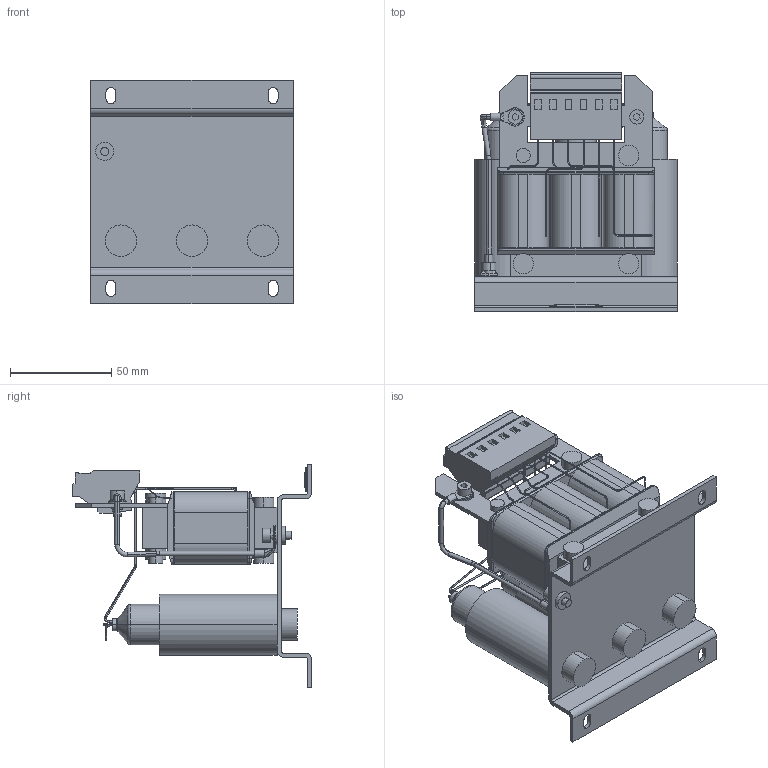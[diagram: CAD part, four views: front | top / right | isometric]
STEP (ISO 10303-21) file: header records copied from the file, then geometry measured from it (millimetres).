
FILE_DESCRIPTION (( 'STEP AP214' ), '1' );
FILE_NAME ('00Z1GX4-0005.STEP', '2023-03-08T10:46:33', ( '' ), ( '' ), 'SwSTEP 2.0', 'SolidWorks 2022', '' );
FILE_SCHEMA (( 'AUTOMOTIVE_DESIGN' ));
Length unit declared in the file: millimetre
Products named in the file (1): 00Z1GX4-0005
Bounding box: 100 x 117.8 x 110 mm (x, y, z)
Volume: 339665.8 mm3; surface area: 81271.2 mm2
Topology: 1 solids, 2 shells, 642 faces, 1647 edges, 1043 vertices
Faces by surface type: plane 264, cylinder 241, torus 99, bspline 28, cone 10
Entity records: 21722 total; most frequent: CARTESIAN_POINT 5699, DIRECTION 3369, ORIENTED_EDGE 3294, EDGE_CURVE 1647, AXIS2_PLACEMENT_3D 1299, VERTEX_POINT 1043, VECTOR 771, LINE 771
